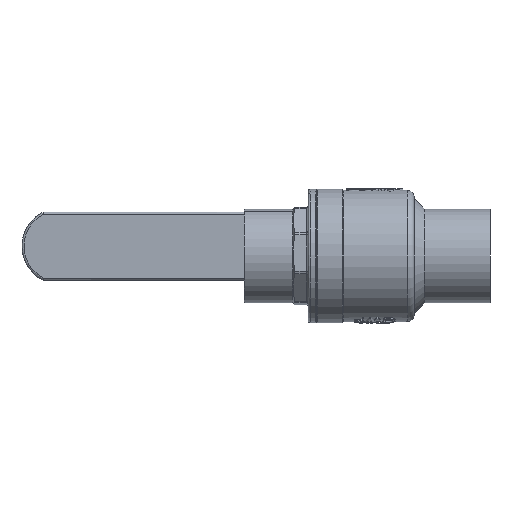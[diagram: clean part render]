
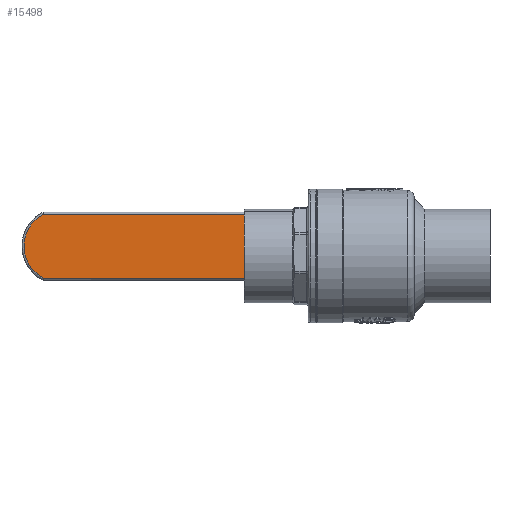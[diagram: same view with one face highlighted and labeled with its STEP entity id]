
A CAD part, front view. The second image highlights one B-rep face of the part: STEP entity #15498.
In plain terms, the highlighted planar face has unit normal (0, -1, 0).
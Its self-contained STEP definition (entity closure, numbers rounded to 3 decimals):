
#989 = ORIENTED_EDGE ( 'NONE', *, *, #75748, .T. ) ;
#1517 = CARTESIAN_POINT ( 'NONE',  ( -123.134, -5., 16.45 ) ) ;
#6247 = EDGE_CURVE ( 'NONE', #17012, #70503, #67680, .T. ) ;
#13592 = AXIS2_PLACEMENT_3D ( 'NONE', #83447, #64637, #70088 ) ;
#15498 = ADVANCED_FACE ( 'NONE', ( #51783 ), #70358, .F. ) ;
#16324 = DIRECTION ( 'NONE',  ( 0., -1., 0. ) ) ;
#17012 = VERTEX_POINT ( 'NONE', #18271 ) ;
#17429 = VECTOR ( 'NONE', #62920, 1000. ) ;
#18271 = CARTESIAN_POINT ( 'NONE',  ( -10.036, -5., -16.45 ) ) ;
#19373 = DIRECTION ( 'NONE',  ( 1., 0., 0. ) ) ;
#21459 = LINE ( 'NONE', #30326, #17429 ) ;
#23408 = ORIENTED_EDGE ( 'NONE', *, *, #6247, .T. ) ;
#30326 = CARTESIAN_POINT ( 'NONE',  ( -123.567, -5., 16.45 ) ) ;
#41727 = CARTESIAN_POINT ( 'NONE',  ( -123.134, -5., -17.45 ) ) ;
#46328 = EDGE_LOOP ( 'NONE', ( #989, #63182, #23408, #79896 ) ) ;
#51783 = FACE_OUTER_BOUND ( 'NONE', #46328, .T. ) ;
#54165 = CARTESIAN_POINT ( 'NONE',  ( -10.036, -5., 16.45 ) ) ;
#54496 = DIRECTION ( 'NONE',  ( 0., 0., -1. ) ) ;
#55662 = VERTEX_POINT ( 'NONE', #82313 ) ;
#58710 = EDGE_CURVE ( 'NONE', #70503, #79281, #21459, .T. ) ;
#61647 = DIRECTION ( 'NONE',  ( 0., 0., 1. ) ) ;
#62920 = DIRECTION ( 'NONE',  ( -1., 0., 0. ) ) ;
#63182 = ORIENTED_EDGE ( 'NONE', *, *, #69227, .T. ) ;
#64403 = CARTESIAN_POINT ( 'NONE',  ( -124., -5., -16.45 ) ) ;
#64441 = LINE ( 'NONE', #41727, #71513 ) ;
#64637 = DIRECTION ( 'NONE',  ( 0., 1., 0. ) ) ;
#67680 = CIRCLE ( 'NONE', #71904, 18.5 ) ;
#69227 = EDGE_CURVE ( 'NONE', #55662, #17012, #76214, .T. ) ;
#70088 = DIRECTION ( 'NONE',  ( 0., 0., 1. ) ) ;
#70358 = PLANE ( 'NONE',  #13592 ) ;
#70503 = VERTEX_POINT ( 'NONE', #54165 ) ;
#71513 = VECTOR ( 'NONE', #54496, 1000. ) ;
#71904 = AXIS2_PLACEMENT_3D ( 'NONE', #74446, #16324, #61647 ) ;
#74159 = VECTOR ( 'NONE', #19373, 1000. ) ;
#74446 = CARTESIAN_POINT ( 'NONE',  ( -18.5, -5., 0. ) ) ;
#75748 = EDGE_CURVE ( 'NONE', #79281, #55662, #64441, .T. ) ;
#76214 = LINE ( 'NONE', #64403, #74159 ) ;
#79281 = VERTEX_POINT ( 'NONE', #1517 ) ;
#79896 = ORIENTED_EDGE ( 'NONE', *, *, #58710, .T. ) ;
#82313 = CARTESIAN_POINT ( 'NONE',  ( -123.134, -5., -16.45 ) ) ;
#83447 = CARTESIAN_POINT ( 'NONE',  ( -124., -5., 16.45 ) ) ;
